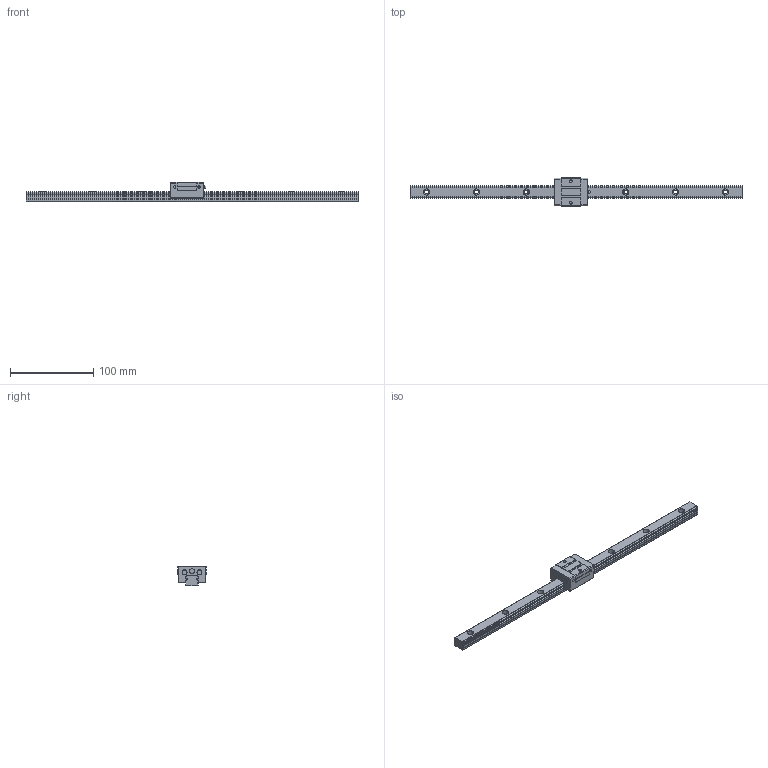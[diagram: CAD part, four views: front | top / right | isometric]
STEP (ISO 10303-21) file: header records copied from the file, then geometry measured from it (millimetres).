
FILE_DESCRIPTION((''),'2;1');
FILE_NAME('D:\製品 (図面)\カタログ用3D\リニアガイド関連\STEP形式\LGSR-S\LGSR15S.stp','2010-06-02T16:02:16',('Tsuchiya'),(''),'Autodesk Inventor 10','Autodesk Inventor 10','');
FILE_SCHEMA(('AUTOMOTIVE_DESIGN { 1 0 10303 214 1 1 1 1 }'));
Length unit declared in the file: millimetre
Products named in the file (3): LGSR15S; LGSR15S1; LGSR15S2
Assembly tree (2 placements, depth 2):
  LGSR15S
    LGSR15S1
    LGSR15S2
Bounding box: 400 x 34 x 24 mm (x, y, z)
Volume: 88562.8 mm3; surface area: 32284.1 mm2
Topology: 2 solids, 2 shells, 162 faces, 401 edges, 267 vertices
Faces by surface type: plane 80, cylinder 43, bspline 37, sphere 2
Full cylindrical faces by diameter (mm): 2.9 x2, 3.5 x1, 4.5 x1, 5.5 x2, 5.6 x1, 6 x2
Entity records: 5045 total; most frequent: CARTESIAN_POINT 1252, DIRECTION 756, ORIENTED_EDGE 722, EDGE_CURVE 361, AXIS2_PLACEMENT_3D 265, VERTEX_POINT 263, EDGE_LOOP 236, VECTOR 226
